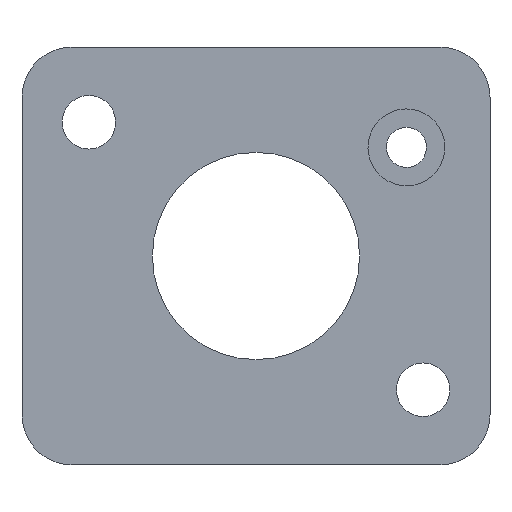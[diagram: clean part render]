
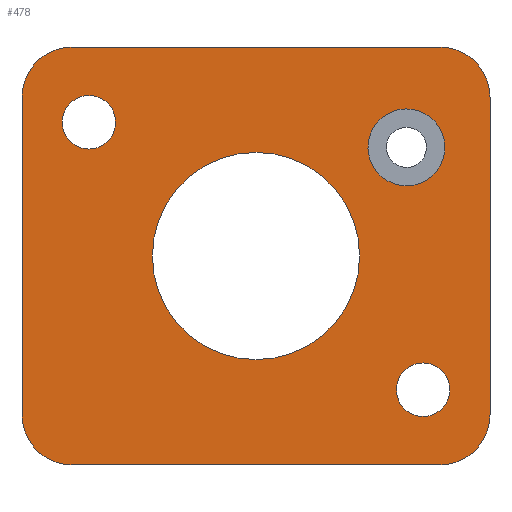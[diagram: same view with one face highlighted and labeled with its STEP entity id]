
A CAD part, left-side view. The second image highlights one B-rep face of the part: STEP entity #478.
In plain terms, the highlighted planar face has unit normal (-1, 0, 0).
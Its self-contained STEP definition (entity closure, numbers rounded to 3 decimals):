
#374=AXIS2_PLACEMENT_3D('Plane Axis2P3D',#371,#372,#373) ;
#378=AXIS2_PLACEMENT_3D('Circle Axis2P3D',#376,#377,$) ;
#383=AXIS2_PLACEMENT_3D('Circle Axis2P3D',#381,#382,$) ;
#388=AXIS2_PLACEMENT_3D('Circle Axis2P3D',#386,#387,$) ;
#393=AXIS2_PLACEMENT_3D('Circle Axis2P3D',#391,#392,$) ;
#408=AXIS2_PLACEMENT_3D('Circle Axis2P3D',#406,#407,$) ;
#417=AXIS2_PLACEMENT_3D('Circle Axis2P3D',#415,#416,$) ;
#426=AXIS2_PLACEMENT_3D('Circle Axis2P3D',#424,#425,$) ;
#435=AXIS2_PLACEMENT_3D('Circle Axis2P3D',#433,#434,$) ;
#444=AXIS2_PLACEMENT_3D('Circle Axis2P3D',#442,#443,$) ;
#453=AXIS2_PLACEMENT_3D('Circle Axis2P3D',#451,#452,$) ;
#462=AXIS2_PLACEMENT_3D('Circle Axis2P3D',#460,#461,$) ;
#471=AXIS2_PLACEMENT_3D('Circle Axis2P3D',#469,#470,$) ;
#256=CARTESIAN_POINT('Vertex',(0.,-14.,9.5)) ;
#259=CARTESIAN_POINT('Line Origine',(0.,-14.,0.)) ;
#263=CARTESIAN_POINT('Vertex',(0.,-14.,-9.5)) ;
#287=CARTESIAN_POINT('Vertex',(0.,-11.,-12.5)) ;
#290=CARTESIAN_POINT('Line Origine',(0.,0.,-12.5)) ;
#294=CARTESIAN_POINT('Vertex',(0.,11.,-12.5)) ;
#318=CARTESIAN_POINT('Vertex',(0.,14.,-9.5)) ;
#321=CARTESIAN_POINT('Line Origine',(0.,14.,0.)) ;
#325=CARTESIAN_POINT('Vertex',(0.,14.,9.5)) ;
#349=CARTESIAN_POINT('Vertex',(0.,-11.,12.5)) ;
#356=CARTESIAN_POINT('Vertex',(0.,11.,12.5)) ;
#359=CARTESIAN_POINT('Line Origine',(0.,0.,12.5)) ;
#371=CARTESIAN_POINT('Axis2P3D Location',(0.,0.,0.)) ;
#376=CARTESIAN_POINT('Axis2P3D Location',(0.,-11.,9.5)) ;
#381=CARTESIAN_POINT('Axis2P3D Location',(0.,11.,9.5)) ;
#386=CARTESIAN_POINT('Axis2P3D Location',(0.,11.,-9.5)) ;
#391=CARTESIAN_POINT('Axis2P3D Location',(0.,-11.,-9.5)) ;
#406=CARTESIAN_POINT('Axis2P3D Location',(0.,-9.,6.5)) ;
#410=CARTESIAN_POINT('Vertex',(0.,-11.018,5.397)) ;
#412=CARTESIAN_POINT('Vertex',(0.,-6.982,7.603)) ;
#415=CARTESIAN_POINT('Axis2P3D Location',(0.,-9.,6.5)) ;
#424=CARTESIAN_POINT('Axis2P3D Location',(0.,0.,0.)) ;
#428=CARTESIAN_POINT('Vertex',(0.,-6.2,0.)) ;
#430=CARTESIAN_POINT('Vertex',(0.,6.2,0.)) ;
#433=CARTESIAN_POINT('Axis2P3D Location',(0.,0.,0.)) ;
#442=CARTESIAN_POINT('Axis2P3D Location',(0.,-10.,-8.)) ;
#446=CARTESIAN_POINT('Vertex',(0.,-11.6,-8.)) ;
#448=CARTESIAN_POINT('Vertex',(0.,-8.4,-8.)) ;
#451=CARTESIAN_POINT('Axis2P3D Location',(0.,-10.,-8.)) ;
#460=CARTESIAN_POINT('Axis2P3D Location',(0.,10.,8.)) ;
#464=CARTESIAN_POINT('Vertex',(0.,8.4,8.)) ;
#466=CARTESIAN_POINT('Vertex',(0.,11.6,8.)) ;
#469=CARTESIAN_POINT('Axis2P3D Location',(0.,10.,8.)) ;
#260=DIRECTION('Vector Direction',(0.,0.,1.)) ;
#291=DIRECTION('Vector Direction',(0.,-1.,0.)) ;
#322=DIRECTION('Vector Direction',(0.,0.,-1.)) ;
#360=DIRECTION('Vector Direction',(0.,1.,0.)) ;
#372=DIRECTION('Axis2P3D Direction',(1.,0.,0.)) ;
#373=DIRECTION('Axis2P3D XDirection',(0.,1.,0.)) ;
#377=DIRECTION('Axis2P3D Direction',(1.,0.,0.)) ;
#382=DIRECTION('Axis2P3D Direction',(1.,0.,0.)) ;
#387=DIRECTION('Axis2P3D Direction',(1.,0.,0.)) ;
#392=DIRECTION('Axis2P3D Direction',(1.,0.,0.)) ;
#407=DIRECTION('Axis2P3D Direction',(1.,0.,0.)) ;
#416=DIRECTION('Axis2P3D Direction',(1.,0.,0.)) ;
#425=DIRECTION('Axis2P3D Direction',(1.,0.,0.)) ;
#434=DIRECTION('Axis2P3D Direction',(1.,0.,0.)) ;
#443=DIRECTION('Axis2P3D Direction',(1.,0.,0.)) ;
#452=DIRECTION('Axis2P3D Direction',(1.,0.,0.)) ;
#461=DIRECTION('Axis2P3D Direction',(1.,0.,0.)) ;
#470=DIRECTION('Axis2P3D Direction',(1.,0.,0.)) ;
#261=VECTOR('Line Direction',#260,1.) ;
#292=VECTOR('Line Direction',#291,1.) ;
#323=VECTOR('Line Direction',#322,1.) ;
#361=VECTOR('Line Direction',#360,1.) ;
#397=ORIENTED_EDGE('',*,*,#380,.F.) ;
#398=ORIENTED_EDGE('',*,*,#363,.F.) ;
#399=ORIENTED_EDGE('',*,*,#385,.F.) ;
#400=ORIENTED_EDGE('',*,*,#327,.F.) ;
#401=ORIENTED_EDGE('',*,*,#390,.F.) ;
#402=ORIENTED_EDGE('',*,*,#296,.F.) ;
#403=ORIENTED_EDGE('',*,*,#395,.F.) ;
#404=ORIENTED_EDGE('',*,*,#265,.F.) ;
#421=ORIENTED_EDGE('',*,*,#414,.T.) ;
#422=ORIENTED_EDGE('',*,*,#419,.T.) ;
#439=ORIENTED_EDGE('',*,*,#432,.T.) ;
#440=ORIENTED_EDGE('',*,*,#437,.T.) ;
#457=ORIENTED_EDGE('',*,*,#450,.T.) ;
#458=ORIENTED_EDGE('',*,*,#455,.T.) ;
#475=ORIENTED_EDGE('',*,*,#468,.T.) ;
#476=ORIENTED_EDGE('',*,*,#473,.T.) ;
#423=FACE_BOUND('',#420,.T.) ;
#441=FACE_BOUND('',#438,.T.) ;
#459=FACE_BOUND('',#456,.T.) ;
#477=FACE_BOUND('',#474,.T.) ;
#478=ADVANCED_FACE('\X2\96F64EF651E04F554F53\X0\',(#405,#423,#441,#459,#477),#375,.F.) ;
#379=CIRCLE('generated circle',#378,3.) ;
#384=CIRCLE('generated circle',#383,3.) ;
#389=CIRCLE('generated circle',#388,3.) ;
#394=CIRCLE('generated circle',#393,3.) ;
#409=CIRCLE('generated circle',#408,2.3) ;
#418=CIRCLE('generated circle',#417,2.3) ;
#427=CIRCLE('generated circle',#426,6.2) ;
#436=CIRCLE('generated circle',#435,6.2) ;
#445=CIRCLE('generated circle',#444,1.6) ;
#454=CIRCLE('generated circle',#453,1.6) ;
#463=CIRCLE('generated circle',#462,1.6) ;
#472=CIRCLE('generated circle',#471,1.6) ;
#265=EDGE_CURVE('',#257,#264,#262,.F.) ;
#296=EDGE_CURVE('',#288,#295,#293,.F.) ;
#327=EDGE_CURVE('',#319,#326,#324,.F.) ;
#363=EDGE_CURVE('',#357,#350,#362,.F.) ;
#380=EDGE_CURVE('',#350,#257,#379,.T.) ;
#385=EDGE_CURVE('',#326,#357,#384,.T.) ;
#390=EDGE_CURVE('',#295,#319,#389,.T.) ;
#395=EDGE_CURVE('',#264,#288,#394,.T.) ;
#414=EDGE_CURVE('',#411,#413,#409,.T.) ;
#419=EDGE_CURVE('',#413,#411,#418,.T.) ;
#432=EDGE_CURVE('',#429,#431,#427,.T.) ;
#437=EDGE_CURVE('',#431,#429,#436,.T.) ;
#450=EDGE_CURVE('',#447,#449,#445,.T.) ;
#455=EDGE_CURVE('',#449,#447,#454,.T.) ;
#468=EDGE_CURVE('',#465,#467,#463,.T.) ;
#473=EDGE_CURVE('',#467,#465,#472,.T.) ;
#396=EDGE_LOOP('',(#397,#398,#399,#400,#401,#402,#403,#404)) ;
#420=EDGE_LOOP('',(#421,#422)) ;
#438=EDGE_LOOP('',(#439,#440)) ;
#456=EDGE_LOOP('',(#457,#458)) ;
#474=EDGE_LOOP('',(#475,#476)) ;
#405=FACE_OUTER_BOUND('',#396,.T.) ;
#262=LINE('Line',#259,#261) ;
#293=LINE('Line',#290,#292) ;
#324=LINE('Line',#321,#323) ;
#362=LINE('Line',#359,#361) ;
#375=PLANE('Plane',#374) ;
#257=VERTEX_POINT('',#256) ;
#264=VERTEX_POINT('',#263) ;
#288=VERTEX_POINT('',#287) ;
#295=VERTEX_POINT('',#294) ;
#319=VERTEX_POINT('',#318) ;
#326=VERTEX_POINT('',#325) ;
#350=VERTEX_POINT('',#349) ;
#357=VERTEX_POINT('',#356) ;
#411=VERTEX_POINT('',#410) ;
#413=VERTEX_POINT('',#412) ;
#429=VERTEX_POINT('',#428) ;
#431=VERTEX_POINT('',#430) ;
#447=VERTEX_POINT('',#446) ;
#449=VERTEX_POINT('',#448) ;
#465=VERTEX_POINT('',#464) ;
#467=VERTEX_POINT('',#466) ;
